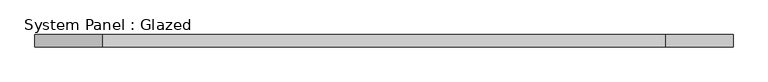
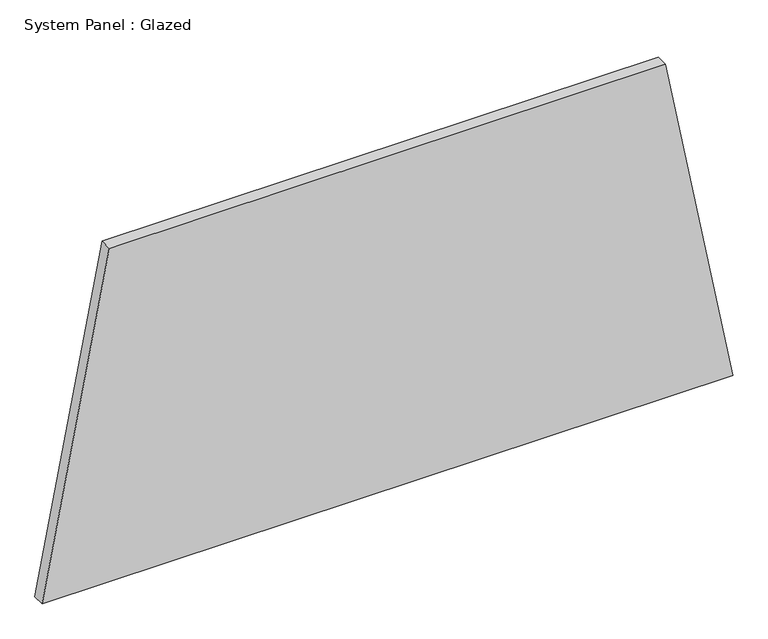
"""IFC4 building model written with IfcOpenShell, lengths in millimetres: plate geometry, System Panel : Glazed."""

from ifc_helpers import new_model, si_unit, frame, origin, place, context, project, spatial, polyline, outline, extrude, source, transform, mapped, element, save


def system_panel_glazed_bd6fc11e(model_context):
    return source(origin(), model_context, "Body", "SweptSolid", [
        extrude(outline(polyline([(0.0, -708.491233), (0.0, 708.491233), (723.1291385, 570.6848325), (723.1291385, -570.6848325), (0.0, -708.491233)])), frame((0.0, -44.45, 0.0), z_axis=(0.0, 1.0, 0.0), x_axis=(0.0, 0.0, 1.0)), (0.0, 0.0, 1.0), 25.4),
    ])


if __name__ == "__main__":
    model = new_model("IFC4")
    model_context = context("Model", 3, world=origin())
    ifc_project = project(units=[si_unit("LENGTHUNIT", "METRE", prefix="MILLI")], contexts=[model_context])
    site = spatial("IfcSite", under=ifc_project)
    building = spatial("IfcBuilding", under=site)
    placement = place(None, origin())
    system_panel_glazed_shape = system_panel_glazed_bd6fc11e(model_context)
    element("IfcPlate", 1, ObjectType="System Panel : Glazed", at=placement, inside=building, context=model_context, shape_type="MappedRepresentation", body=[
        mapped(system_panel_glazed_shape, transform((0.0, 0.0, 0.0), x_axis=(1.0, 0.0, 0.0), y_axis=(0.0, 1.0, 0.0), z_axis=(0.0, 0.0, 1.0))),
    ])
    save(model, "model.ifc")
